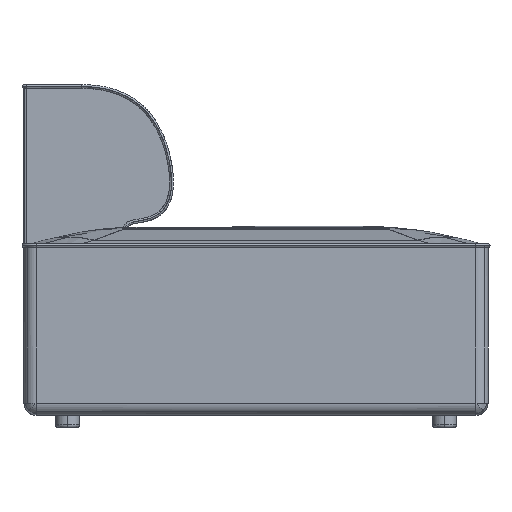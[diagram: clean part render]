
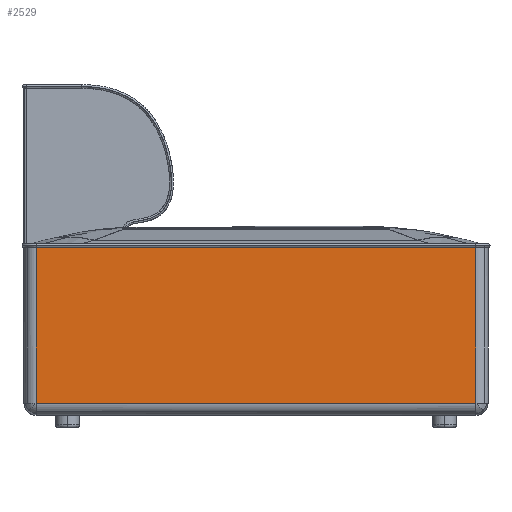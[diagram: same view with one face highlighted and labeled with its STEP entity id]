
A CAD part, left-side view. The second image highlights one B-rep face of the part: STEP entity #2529.
In plain terms, the highlighted planar face has unit normal (-1, 0, 0).
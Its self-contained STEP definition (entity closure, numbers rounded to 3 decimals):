
#123=PLANE('',#6377);
#2529=ADVANCED_FACE('',(#2734),#123,.T.);
#2734=FACE_OUTER_BOUND('',#2951,.T.);
#2951=EDGE_LOOP('',(#3602,#3603,#3604,#3605));
#3602=ORIENTED_EDGE('',*,*,#4393,.T.);
#3603=ORIENTED_EDGE('',*,*,#4394,.T.);
#3604=ORIENTED_EDGE('',*,*,#4395,.T.);
#3605=ORIENTED_EDGE('',*,*,#4396,.T.);
#4393=EDGE_CURVE('',#5975,#5976,#4849,.T.);
#4394=EDGE_CURVE('',#5976,#5977,#4850,.T.);
#4395=EDGE_CURVE('',#5977,#5978,#4851,.T.);
#4396=EDGE_CURVE('',#5978,#5975,#4852,.T.);
#4849=B_SPLINE_CURVE_WITH_KNOTS('',1,(#12293,#12294),.UNSPECIFIED.,.F.,
 .F.,(2,2),(0.,1.),.UNSPECIFIED.);
#4850=B_SPLINE_CURVE_WITH_KNOTS('',1,(#12295,#12296),.UNSPECIFIED.,.F.,
 .F.,(2,2),(0.,1.),.UNSPECIFIED.);
#4851=B_SPLINE_CURVE_WITH_KNOTS('',1,(#12297,#12298),.UNSPECIFIED.,.F.,
 .F.,(2,2),(-1.,0.),.UNSPECIFIED.);
#4852=B_SPLINE_CURVE_WITH_KNOTS('',1,(#12299,#12300),.UNSPECIFIED.,.F.,
 .F.,(2,2),(-1.,0.),.UNSPECIFIED.);
#5975=VERTEX_POINT('',#12289);
#5976=VERTEX_POINT('',#12290);
#5977=VERTEX_POINT('',#12291);
#5978=VERTEX_POINT('',#12292);
#6377=AXIS2_PLACEMENT_3D('',#12288,#6509,$);
#6509=DIRECTION('',(-1.,0.,0.));
#12288=CARTESIAN_POINT('',(-720.,784.5,374.953));
#12289=CARTESIAN_POINT('',(-720.,784.5,374.953));
#12290=CARTESIAN_POINT('',(-720.,784.5,48.953));
#12291=CARTESIAN_POINT('',(-720.,-125.5,48.953));
#12292=CARTESIAN_POINT('',(-720.,-125.5,374.953));
#12293=CARTESIAN_POINT('',(-720.,784.5,374.953));
#12294=CARTESIAN_POINT('',(-720.,784.5,48.953));
#12295=CARTESIAN_POINT('',(-720.,784.5,48.953));
#12296=CARTESIAN_POINT('',(-720.,-125.5,48.953));
#12297=CARTESIAN_POINT('',(-720.,-125.5,48.953));
#12298=CARTESIAN_POINT('',(-720.,-125.5,374.953));
#12299=CARTESIAN_POINT('',(-720.,-125.5,374.953));
#12300=CARTESIAN_POINT('',(-720.,784.5,374.953));
